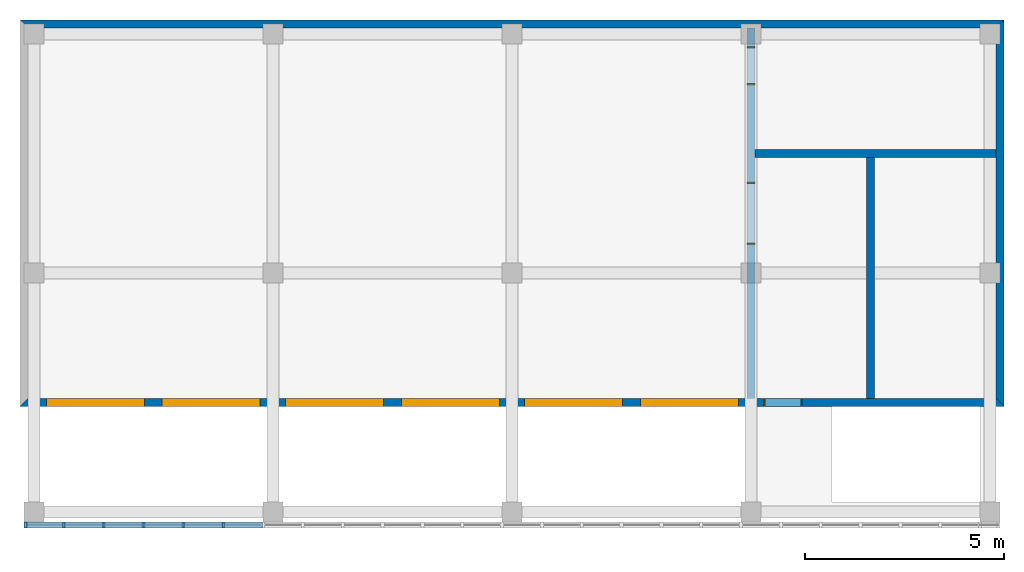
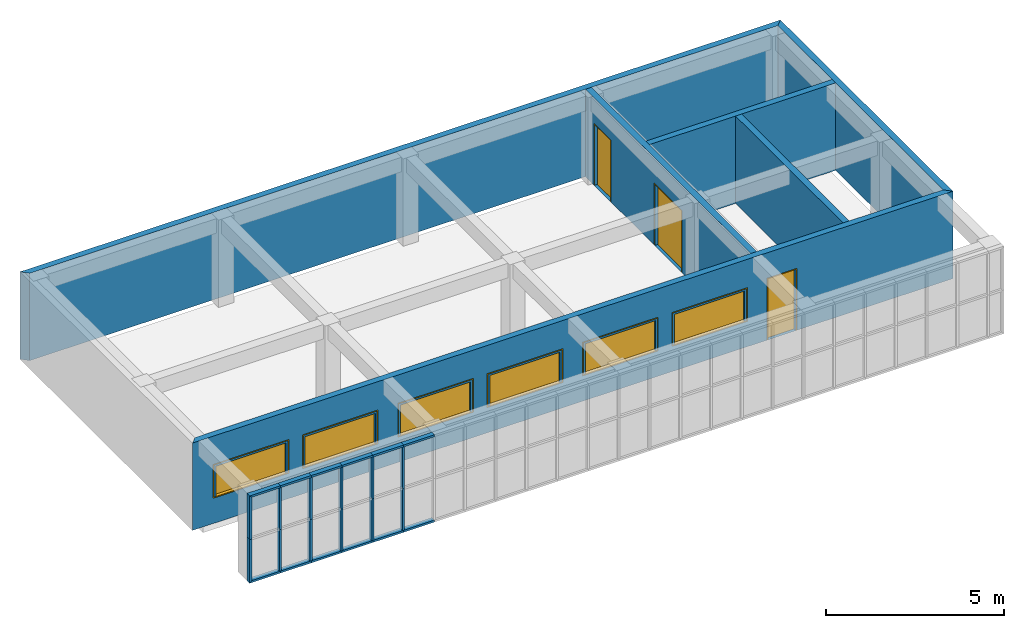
# One storey, part 2 of 4: 24 discrete accessories, 6 walls, 6 windows, 3 doors, 9 openings, 1 element without a shape of its own.
"""IFC2X3 building model written with IfcOpenShell, lengths in millimetres."""

from ifc_helpers import new_model, entity, si_unit, converted_unit, direction, frame, frame_2d, origin_with_axes, place, context, project, spatial, polyline, rectangle, outline, extrude, open_shell, surface_model, source, transform, mapped, material, layer, layer_set, layer_usage, type_object, element, fill, aggregate, save


model = new_model("IFC2X3")

# Units and contexts
model_context = context("Model", 3, precision=1e-05, world=origin_with_axes(), true_north=direction((6.123234e-17, 1.0)))
plan_context = context("Plan", 3, precision=1e-05, world=origin_with_axes(), true_north=direction((6.123234e-17, 1.0)))
ifc_project = project(units=[si_unit("LENGTHUNIT", "METRE", prefix="MILLI"), si_unit("AREAUNIT", "SQUARE_METRE"), si_unit("VOLUMEUNIT", "CUBIC_METRE"), converted_unit("PLANEANGLEUNIT", "DEGREE", entity("IfcPlaneAngleMeasure", 0.017453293), si_unit("PLANEANGLEUNIT", "RADIAN"), dimensions=[0, 0, 0, 0, 0, 0, 0]), si_unit("SOLIDANGLEUNIT", "STERADIAN"), si_unit("MASSUNIT", "GRAM"), si_unit("TIMEUNIT", "SECOND"), si_unit("THERMODYNAMICTEMPERATUREUNIT", "DEGREE_CELSIUS"), si_unit("LUMINOUSINTENSITYUNIT", "LUMEN")], contexts=[model_context, plan_context])

# Site, building, storey
site_placement = place(None, origin_with_axes())
site = spatial("IfcSite", under=ifc_project, at=site_placement, Name="\x8aO\x8d\\", CompositionType="ELEMENT")
building_placement = place(site_placement, origin_with_axes())
building = spatial("IfcBuilding", under=site, at=building_placement, Name="20101105_ArchCADMagic_002", CompositionType="ELEMENT")
storey_placement = place(building_placement, frame((0.0, 0.0, 3450.0), z_axis=(0.0, 0.0, 1.0), x_axis=(1.0, 0.0, 0.0)))
storey = spatial("IfcBuildingStorey", under=building, at=storey_placement, Name="1. 2\x8aK", CompositionType="ELEMENT", Elevation=3450.0)

# Wall, openings, door, windows
ifc_material = material(Name="\x83R\x83\x93\x83N\x83\x8a\x81[\x83g-\x8d\\\x91¢2")
ifc_layer = layer(ifc_material, 200.0, ventilated="UNKNOWN")
ifc_layer_set = layer_set([ifc_layer], Name="\x83R\x83\x93\x83N\x83\x8a\x81[\x83g-\x8d\\\x91¢2 200")
ifc_layer_usage_1 = layer_usage(ifc_layer_set, "AXIS2", "NEGATIVE", 100.0)
wall_type = type_object("IfcWallType", Name="\x83R\x83\x93\x83N\x83\x8a\x81[\x83g-\x8d\\\x91¢2 200", PredefinedType="NOTDEFINED", material=ifc_layer_set)
wall_1_placement = place(storey_placement, frame((-250.0, 2750.0, 0.0), z_axis=(0.0, 0.0, 1.0), x_axis=(1.0, 0.0, 0.0)))
wall_1 = element("IfcWallStandardCase", 1, at=wall_1_placement, inside=storey, type_object=wall_type, material=ifc_layer_usage_1, Name="W5", context=model_context, shape_type="SweptSolid", body=[
    extrude(outline(polyline([(-100.0, -100.0), (24600.0, -100.0), (24400.0, 100.0), (100.0, 100.0), (-100.0, -100.0)])), origin_with_axes(), (0.0, 0.0, 1.0), 3000.0),
])
opening_1_placement = place(wall_1_placement, frame((19050.0, -100.0, 0.0), z_axis=(0.0, 0.0, 1.0), x_axis=(1.0, 0.0, 0.0)))
opening_1 = element("IfcOpeningElement", 2, at=opening_1_placement, cuts=wall_1, ObjectType="Opening", context=model_context, shape_type="SweptSolid", body=[
    extrude(rectangle(XDim=899.0, YDim=2099.0, at=frame_2d((0.0, 1050.0), x_axis=(1.0, 0.0))), frame((0.0, 0.0, 0.0), z_axis=(0.0, 1.0, 0.0), x_axis=(-1.0, 0.0, 0.0)), (0.0, 0.0, 1.0), 200.0),
])
opening_2_placement = place(wall_1_placement, frame((1800.0, -100.0, 900.0), z_axis=(0.0, 0.0, 1.0), x_axis=(1.0, 0.0, 0.0)))
opening_2 = element("IfcOpeningElement", 3, at=opening_2_placement, cuts=wall_1, ObjectType="Opening", context=model_context, shape_type="SweptSolid", body=[
    extrude(rectangle(XDim=2400.0, YDim=1100.0, at=frame_2d((0.0, 550.0), x_axis=(1.0, 0.0))), frame((0.0, 60.0, 0.0), z_axis=(0.0, 1.0, 0.0), x_axis=(-1.0, 0.0, 0.0)), (0.0, 0.0, 1.0), 140.0),
    extrude(rectangle(XDim=2280.0, YDim=1040.0, at=frame_2d((0.0, 520.0), x_axis=(1.0, 0.0))), frame((0.0, 0.0, 0.0), z_axis=(0.0, 1.0, 0.0), x_axis=(-1.0, 0.0, 0.0)), (0.0, 0.0, 1.0), 60.0),
])
opening_3_placement = place(wall_1_placement, frame((4700.0, -100.0, 900.0), z_axis=(0.0, 0.0, 1.0), x_axis=(1.0, 0.0, 0.0)))
opening_3 = element("IfcOpeningElement", 4, at=opening_3_placement, cuts=wall_1, ObjectType="Opening", context=model_context, shape_type="SweptSolid", body=[
    extrude(rectangle(XDim=2400.0, YDim=1100.0, at=frame_2d((0.0, 550.0), x_axis=(1.0, 0.0))), frame((0.0, 60.0, 0.0), z_axis=(0.0, 1.0, 0.0), x_axis=(-1.0, 0.0, 0.0)), (0.0, 0.0, 1.0), 140.0),
    extrude(rectangle(XDim=2280.0, YDim=1040.0, at=frame_2d((0.0, 520.0), x_axis=(1.0, 0.0))), frame((0.0, 0.0, 0.0), z_axis=(0.0, 1.0, 0.0), x_axis=(-1.0, 0.0, 0.0)), (0.0, 0.0, 1.0), 60.0),
])
opening_4_placement = place(wall_1_placement, frame((7800.0, -100.0, 900.0), z_axis=(0.0, 0.0, 1.0), x_axis=(1.0, 0.0, 0.0)))
opening_4 = element("IfcOpeningElement", 5, at=opening_4_placement, cuts=wall_1, ObjectType="Opening", context=model_context, shape_type="SweptSolid", body=[
    extrude(rectangle(XDim=2400.0, YDim=1100.0, at=frame_2d((0.0, 550.0), x_axis=(1.0, 0.0))), frame((0.0, 60.0, 0.0), z_axis=(0.0, 1.0, 0.0), x_axis=(-1.0, 0.0, 0.0)), (0.0, 0.0, 1.0), 140.0),
    extrude(rectangle(XDim=2280.0, YDim=1040.0, at=frame_2d((0.0, 520.0), x_axis=(1.0, 0.0))), frame((0.0, 0.0, 0.0), z_axis=(0.0, 1.0, 0.0), x_axis=(-1.0, 0.0, 0.0)), (0.0, 0.0, 1.0), 60.0),
])
opening_5_placement = place(wall_1_placement, frame((10700.0, -100.0, 900.0), z_axis=(0.0, 0.0, 1.0), x_axis=(1.0, 0.0, 0.0)))
opening_5 = element("IfcOpeningElement", 6, at=opening_5_placement, cuts=wall_1, ObjectType="Opening", context=model_context, shape_type="SweptSolid", body=[
    extrude(rectangle(XDim=2400.0, YDim=1100.0, at=frame_2d((0.0, 550.0), x_axis=(1.0, 0.0))), frame((0.0, 60.0, 0.0), z_axis=(0.0, 1.0, 0.0), x_axis=(-1.0, 0.0, 0.0)), (0.0, 0.0, 1.0), 140.0),
    extrude(rectangle(XDim=2280.0, YDim=1040.0, at=frame_2d((0.0, 520.0), x_axis=(1.0, 0.0))), frame((0.0, 0.0, 0.0), z_axis=(0.0, 1.0, 0.0), x_axis=(-1.0, 0.0, 0.0)), (0.0, 0.0, 1.0), 60.0),
])
opening_6_placement = place(wall_1_placement, frame((13800.0, -100.0, 900.0), z_axis=(0.0, 0.0, 1.0), x_axis=(1.0, 0.0, 0.0)))
opening_6 = element("IfcOpeningElement", 7, at=opening_6_placement, cuts=wall_1, ObjectType="Opening", context=model_context, shape_type="SweptSolid", body=[
    extrude(rectangle(XDim=2400.0, YDim=1100.0, at=frame_2d((0.0, 550.0), x_axis=(1.0, 0.0))), frame((0.0, 60.0, 0.0), z_axis=(0.0, 1.0, 0.0), x_axis=(-1.0, 0.0, 0.0)), (0.0, 0.0, 1.0), 140.0),
    extrude(rectangle(XDim=2280.0, YDim=1040.0, at=frame_2d((0.0, 520.0), x_axis=(1.0, 0.0))), frame((0.0, 0.0, 0.0), z_axis=(0.0, 1.0, 0.0), x_axis=(-1.0, 0.0, 0.0)), (0.0, 0.0, 1.0), 60.0),
])
opening_7_placement = place(wall_1_placement, frame((16700.0, -100.0, 900.0), z_axis=(0.0, 0.0, 1.0), x_axis=(1.0, 0.0, 0.0)))
opening_7 = element("IfcOpeningElement", 8, at=opening_7_placement, cuts=wall_1, ObjectType="Opening", context=model_context, shape_type="SweptSolid", body=[
    extrude(rectangle(XDim=2400.0, YDim=1100.0, at=frame_2d((0.0, 550.0), x_axis=(1.0, 0.0))), frame((0.0, 60.0, 0.0), z_axis=(0.0, 1.0, 0.0), x_axis=(-1.0, 0.0, 0.0)), (0.0, 0.0, 1.0), 140.0),
    extrude(rectangle(XDim=2280.0, YDim=1040.0, at=frame_2d((0.0, 520.0), x_axis=(1.0, 0.0))), frame((0.0, 0.0, 0.0), z_axis=(0.0, 1.0, 0.0), x_axis=(-1.0, 0.0, 0.0)), (0.0, 0.0, 1.0), 60.0),
])
door_style_1 = type_object("IfcDoorStyle", ConstructionType="NOTDEFINED", OperationType="NOTDEFINED", ParameterTakesPrecedence=False, Sizeable=False)
shared_shape_1 = source(origin_with_axes(), model_context, "Body", "SurfaceModel", [
    surface_model("IfcShellBasedSurfaceModel", [(0.0, -10.0, 0.0), (0.0, -10.0, 2100.0), (900.0, -10.0, 2100.0), (900.0, -10.0, 0.0), (150.0, -10.0, 150.0), (750.0, -10.0, 150.0), (750.0, -10.0, 1950.0), (150.0, -10.0, 1950.0), (150.0, -10.0, 150.0), (150.0, -10.0, 1950.0), (750.0, -10.0, 1950.0), (750.0, -10.0, 150.0), (930.0, 90.0, 0.0), (900.0, 90.0, 0.0), (900.0, 90.0, 2100.0), (0.0, 90.0, 2100.0), (0.0, 90.0, 0.0), (-30.0, 90.0, 0.0), (-30.0, 90.0, 2130.0), (930.0, 90.0, 2130.0), (930.0, -110.0, 0.0), (900.0, -110.0, 0.0), (900.0, -110.0, 2100.0), (0.0, -110.0, 2100.0), (0.0, -110.0, 0.0), (-30.0, -110.0, 0.0), (-30.0, -110.0, 2130.0), (930.0, -110.0, 2130.0), (900.0, 90.0, 0.0), (900.0, -110.0, 0.0), (900.0, -110.0, 2100.0), (900.0, 90.0, 2100.0), (930.0, 90.0, 0.0), (930.0, -110.0, 0.0), (0.0, -110.0, 2100.0), (0.0, 90.0, 2100.0), (930.0, 90.0, 2130.0), (930.0, -110.0, 2130.0), (0.0, -110.0, 0.0), (0.0, 90.0, 0.0), (-30.0, 90.0, 2130.0), (-30.0, -110.0, 2130.0), (-30.0, -110.0, 0.0), (-30.0, 90.0, 0.0)], [open_shell([[[0, 1, 2, 3], [4, 5, 6, 7]]]), open_shell([[[8, 9, 10, 11]]]), open_shell([[[12, 13, 14, 15, 16, 17, 18, 19]]]), open_shell([[[20, 21, 22, 23, 24, 25, 26, 27]]]), open_shell([[[28, 29, 30, 31]], [[32, 33, 29, 28]], [[31, 30, 34, 35]], [[36, 37, 33, 32]], [[35, 34, 38, 39]], [[40, 41, 37, 36]], [[39, 38, 42, 43]], [[43, 42, 41, 40]]])]),
])
door_1_placement = place(opening_1_placement, frame((-450.0, 110.0, 0.0), z_axis=(0.0, 0.0, 1.0), x_axis=(1.0, 0.0, 0.0)))
door_1 = element("IfcDoor", 9, at=door_1_placement, inside=storey, type_object=door_style_1, Name="SD2", OverallHeight=2100.0, OverallWidth=900.0, context=model_context, shape_type="MappedRepresentation", body=[
    mapped(shared_shape_1, transform((0.0, 0.0, 0.0), scale=1.0)),
])
fill(opening_1, door_1)
window_style_1 = type_object("IfcWindowStyle", ConstructionType="NOTDEFINED", OperationType="NOTDEFINED", ParameterTakesPrecedence=False, Sizeable=False)
shared_shape_2 = source(origin_with_axes(), model_context, "Body", "SurfaceModel", [
    surface_model("IfcShellBasedSurfaceModel", [(2400.0, 40.0, 8.8817842e-13), (2400.0, 40.0, 1100.0), (0.0, 40.0, 1100.0), (0.0, 40.0, 8.8817842e-13), (-30.0, -60.0, -30.0), (2430.0, -60.0, -30.0), (2430.0, -60.0, 1130.0), (-30.0, -60.0, 1130.0), (0.0, -60.0, 8.8817842e-13), (0.0, -60.0, 1100.0), (2400.0, -60.0, 1100.0), (2400.0, -60.0, 8.8817842e-13), (-30.0, 140.0, -30.0), (2430.0, 140.0, -30.0), (2430.0, 140.0, 1130.0), (-30.0, 140.0, 1130.0), (0.0, 140.0, 8.8817842e-13), (0.0, 140.0, 1100.0), (2400.0, 140.0, 1100.0), (2400.0, 140.0, 8.8817842e-13), (-30.0, -60.0, -30.0), (-30.0, 140.0, -30.0), (2430.0, 140.0, -30.0), (2430.0, -60.0, -30.0), (-30.0, -60.0, 1130.0), (-30.0, 140.0, 1130.0), (2430.0, 140.0, 1130.0), (2430.0, -60.0, 1130.0), (0.0, -60.0, 8.8817842e-13), (0.0, 140.0, 8.8817842e-13), (2400.0, 140.0, 8.8817842e-13), (2400.0, -60.0, 8.8817842e-13), (0.0, -60.0, 1100.0), (0.0, 140.0, 1100.0), (2400.0, 140.0, 1100.0), (2400.0, -60.0, 1100.0)], [open_shell([[[0, 1, 2, 3]]]), open_shell([[[4, 5, 6, 7], [8, 9, 10, 11]]]), open_shell([[[12, 13, 14, 15], [16, 17, 18, 19]]]), open_shell([[[20, 21, 22, 23]], [[24, 25, 21, 20]], [[23, 22, 26, 27]], [[27, 26, 25, 24]]]), open_shell([[[28, 29, 30, 31]], [[32, 33, 29, 28]], [[31, 30, 34, 35]], [[35, 34, 33, 32]]])]),
])
window_1_placement = place(opening_2_placement, frame((-1200.0, 60.0, 0.0), z_axis=(0.0, 0.0, 1.0), x_axis=(1.0, 0.0, 0.0)))
window_1 = element("IfcWindow", 10, at=window_1_placement, inside=storey, type_object=window_style_1, Name="AW1", OverallHeight=1100.0, OverallWidth=2400.0, context=model_context, shape_type="MappedRepresentation", body=[
    mapped(shared_shape_2, transform((0.0, 0.0, 0.0), scale=1.0)),
])
fill(opening_2, window_1)
window_style_2 = type_object("IfcWindowStyle", ConstructionType="NOTDEFINED", OperationType="NOTDEFINED", ParameterTakesPrecedence=False, Sizeable=False)
window_2_placement = place(opening_3_placement, frame((-1200.0, 60.0, 0.0), z_axis=(0.0, 0.0, 1.0), x_axis=(1.0, 0.0, 0.0)))
window_2 = element("IfcWindow", 11, at=window_2_placement, inside=storey, type_object=window_style_2, Name="AW1", OverallHeight=1100.0, OverallWidth=2400.0, context=model_context, shape_type="MappedRepresentation", body=[
    mapped(shared_shape_2, transform((0.0, 0.0, 0.0), scale=1.0)),
])
fill(opening_3, window_2)
window_style_3 = type_object("IfcWindowStyle", ConstructionType="NOTDEFINED", OperationType="NOTDEFINED", ParameterTakesPrecedence=False, Sizeable=False)
window_3_placement = place(opening_4_placement, frame((-1200.0, 60.0, 0.0), z_axis=(0.0, 0.0, 1.0), x_axis=(1.0, 0.0, 0.0)))
window_3 = element("IfcWindow", 12, at=window_3_placement, inside=storey, type_object=window_style_3, Name="AW1", OverallHeight=1100.0, OverallWidth=2400.0, context=model_context, shape_type="MappedRepresentation", body=[
    mapped(shared_shape_2, transform((0.0, 0.0, 0.0), scale=1.0)),
])
fill(opening_4, window_3)
window_style_4 = type_object("IfcWindowStyle", ConstructionType="NOTDEFINED", OperationType="NOTDEFINED", ParameterTakesPrecedence=False, Sizeable=False)
window_4_placement = place(opening_5_placement, frame((-1200.0, 60.0, 0.0), z_axis=(0.0, 0.0, 1.0), x_axis=(1.0, 0.0, 0.0)))
window_4 = element("IfcWindow", 13, at=window_4_placement, inside=storey, type_object=window_style_4, Name="AW1", OverallHeight=1100.0, OverallWidth=2400.0, context=model_context, shape_type="MappedRepresentation", body=[
    mapped(shared_shape_2, transform((0.0, 0.0, 0.0), scale=1.0)),
])
fill(opening_5, window_4)
window_style_5 = type_object("IfcWindowStyle", ConstructionType="NOTDEFINED", OperationType="NOTDEFINED", ParameterTakesPrecedence=False, Sizeable=False)
window_5_placement = place(opening_6_placement, frame((-1200.0, 60.0, 0.0), z_axis=(0.0, 0.0, 1.0), x_axis=(1.0, 0.0, 0.0)))
window_5 = element("IfcWindow", 14, at=window_5_placement, inside=storey, type_object=window_style_5, Name="AW1", OverallHeight=1100.0, OverallWidth=2400.0, context=model_context, shape_type="MappedRepresentation", body=[
    mapped(shared_shape_2, transform((0.0, 0.0, 0.0), scale=1.0)),
])
fill(opening_6, window_5)
window_style_6 = type_object("IfcWindowStyle", ConstructionType="NOTDEFINED", OperationType="NOTDEFINED", ParameterTakesPrecedence=False, Sizeable=False)
window_6_placement = place(opening_7_placement, frame((-1200.0, 60.0, 0.0), z_axis=(0.0, 0.0, 1.0), x_axis=(1.0, 0.0, 0.0)))
window_6 = element("IfcWindow", 15, at=window_6_placement, inside=storey, type_object=window_style_6, Name="AW1", OverallHeight=1100.0, OverallWidth=2400.0, context=model_context, shape_type="MappedRepresentation", body=[
    mapped(shared_shape_2, transform((0.0, 0.0, 0.0), scale=1.0)),
])
fill(opening_7, window_6)

# Walls
ifc_layer_usage_2 = layer_usage(ifc_layer_set, "AXIS2", "NEGATIVE", 100.0)
wall_2_placement = place(storey_placement, frame((24250.0, 2750.0, 0.0), z_axis=(0.0, 0.0, 1.0), x_axis=(0.0, 1.0, 0.0)))
element("IfcWallStandardCase", 16, at=wall_2_placement, inside=storey, type_object=wall_type, material=ifc_layer_usage_2, Name="W6", context=model_context, shape_type="SweptSolid", body=[
    extrude(outline(polyline([(-100.0, -100.0), (9600.0, -100.0), (9400.0, 100.0), (100.0, 100.0), (-100.0, -100.0)])), origin_with_axes(), (0.0, 0.0, 1.0), 3000.0),
])
ifc_layer_usage_3 = layer_usage(ifc_layer_set, "AXIS2", "NEGATIVE", 100.0)
wall_3_placement = place(storey_placement, frame((24250.0, 12250.0, 0.0), z_axis=(0.0, 0.0, 1.0), x_axis=(-1.0, 0.0, 0.0)))
element("IfcWallStandardCase", 17, at=wall_3_placement, inside=storey, type_object=wall_type, material=ifc_layer_usage_3, Name="W7", context=model_context, shape_type="SweptSolid", body=[
    extrude(outline(polyline([(-100.0, -100.0), (24600.0, -100.0), (24400.0, 100.0), (100.0, 100.0), (-100.0, -100.0)])), origin_with_axes(), (0.0, 0.0, 1.0), 3000.0),
])

# Wall, openings, doors
ifc_layer_usage_4 = layer_usage(ifc_layer_set, "AXIS2", "NEGATIVE", 100.0)
wall_4_placement = place(storey_placement, frame((18000.0, 2750.0, 0.0), z_axis=(0.0, 0.0, 1.0), x_axis=(0.0, 1.0, 0.0)))
wall_4 = element("IfcWallStandardCase", 18, at=wall_4_placement, inside=storey, type_object=wall_type, material=ifc_layer_usage_4, Name="W9", context=model_context, shape_type="SweptSolid", body=[
    extrude(outline(polyline([(100.0, -100.0), (9400.0, -100.0), (9400.0, 100.0), (100.0, 100.0), (100.0, -100.0)])), origin_with_axes(), (0.0, 0.0, 1.0), 3000.0),
])
opening_8_placement = place(wall_4_placement, frame((8450.0, -100.0, 0.0), z_axis=(0.0, 0.0, 1.0), x_axis=(1.0, 0.0, 0.0)))
opening_8 = element("IfcOpeningElement", 19, at=opening_8_placement, cuts=wall_4, ObjectType="Opening", context=model_context, shape_type="SweptSolid", body=[
    extrude(rectangle(XDim=899.0, YDim=2099.0, at=frame_2d((0.0, 1050.0), x_axis=(1.0, 0.0))), frame((0.0, 0.0, 0.0), z_axis=(0.0, 1.0, 0.0), x_axis=(-1.0, 0.0, 0.0)), (0.0, 0.0, 1.0), 200.0),
])
opening_9_placement = place(wall_4_placement, frame((4750.0, -100.0, 0.0), z_axis=(0.0, 0.0, 1.0), x_axis=(1.0, 0.0, 0.0)))
opening_9 = element("IfcOpeningElement", 20, at=opening_9_placement, cuts=wall_4, ObjectType="Opening", context=model_context, shape_type="SweptSolid", body=[
    extrude(rectangle(XDim=1499.0, YDim=2099.0, at=frame_2d((0.0, 1050.0), x_axis=(1.0, 0.0))), frame((0.0, 0.0, 0.0), z_axis=(0.0, 1.0, 0.0), x_axis=(-1.0, 0.0, 0.0)), (0.0, 0.0, 1.0), 200.0),
])
door_style_2 = type_object("IfcDoorStyle", ConstructionType="NOTDEFINED", OperationType="NOTDEFINED", ParameterTakesPrecedence=False, Sizeable=False)
shared_shape_3 = source(origin_with_axes(), model_context, "Body", "SurfaceModel", [
    surface_model("IfcShellBasedSurfaceModel", [(0.0, -10.0, 0.0), (0.0, -10.0, 2100.0), (900.0, -10.0, 2100.0), (900.0, -10.0, 0.0), (150.0, -10.0, 150.0), (750.0, -10.0, 150.0), (750.0, -10.0, 1950.0), (150.0, -10.0, 1950.0), (150.0, -10.0, 150.0), (150.0, -10.0, 1950.0), (750.0, -10.0, 1950.0), (750.0, -10.0, 150.0), (930.0, 90.0, 0.0), (900.0, 90.0, 0.0), (900.0, 90.0, 2100.0), (0.0, 90.0, 2100.0), (0.0, 90.0, 0.0), (-30.0, 90.0, 0.0), (-30.0, 90.0, 2130.0), (930.0, 90.0, 2130.0), (930.0, -110.0, 0.0), (900.0, -110.0, 0.0), (900.0, -110.0, 2100.0), (0.0, -110.0, 2100.0), (0.0, -110.0, 0.0), (-30.0, -110.0, 0.0), (-30.0, -110.0, 2130.0), (930.0, -110.0, 2130.0), (900.0, 90.0, 0.0), (900.0, -110.0, 0.0), (900.0, -110.0, 2100.0), (900.0, 90.0, 2100.0), (930.0, 90.0, 0.0), (930.0, -110.0, 0.0), (0.0, -110.0, 2100.0), (0.0, 90.0, 2100.0), (930.0, 90.0, 2130.0), (930.0, -110.0, 2130.0), (0.0, -110.0, 0.0), (0.0, 90.0, 0.0), (-30.0, 90.0, 2130.0), (-30.0, -110.0, 2130.0), (-30.0, -110.0, 0.0), (-30.0, 90.0, 0.0)], [open_shell([[[0, 1, 2, 3], [4, 5, 6, 7]]]), open_shell([[[8, 9, 10, 11]]]), open_shell([[[12, 13, 14, 15, 16, 17, 18, 19]]]), open_shell([[[20, 21, 22, 23, 24, 25, 26, 27]]]), open_shell([[[28, 29, 30, 31]], [[32, 33, 29, 28]], [[31, 30, 34, 35]], [[36, 37, 33, 32]], [[35, 34, 38, 39]], [[40, 41, 37, 36]], [[39, 38, 42, 43]], [[43, 42, 41, 40]]])]),
])
door_2_placement = place(opening_8_placement, frame((450.0, 90.0, 0.0), z_axis=(0.0, 0.0, 1.0), x_axis=(-1.0, 0.0, 0.0)))
door_2 = element("IfcDoor", 21, at=door_2_placement, inside=storey, type_object=door_style_2, Name="SD1", OverallHeight=2100.0, OverallWidth=900.0, context=model_context, shape_type="MappedRepresentation", body=[
    mapped(shared_shape_3, transform((0.0, 0.0, 0.0), scale=1.0)),
])
fill(opening_8, door_2)
door_style_3 = type_object("IfcDoorStyle", Name="\x97¼\x8aJ\x82«\x8cË_JX4", ConstructionType="NOTDEFINED", OperationType="NOTDEFINED", ParameterTakesPrecedence=False, Sizeable=False)
shared_shape_4 = source(origin_with_axes(), model_context, "Body", "SurfaceModel", [
    surface_model("IfcShellBasedSurfaceModel", [(750.0, -10.0, 0.0), (750.0, -10.0, 2100.0), (1500.0, -10.0, 2100.0), (1500.0, -10.0, 0.0), (750.0, -10.0, 0.0), (0.0, -10.0, 0.0), (0.0, -10.0, 2100.0), (750.0, -10.0, 2100.0), (-30.0, 90.0, 0.0), (-30.0, 90.0, 2130.0), (1530.0, 90.0, 2130.0), (1530.0, 90.0, 0.0), (1500.0, 90.0, 0.0), (1500.0, 90.0, 2100.0), (0.0, 90.0, 2100.0), (0.0, 90.0, 0.0), (-30.0, -110.0, 0.0), (-30.0, -110.0, 2130.0), (1530.0, -110.0, 2130.0), (1530.0, -110.0, 0.0), (1500.0, -110.0, 0.0), (1500.0, -110.0, 2100.0), (0.0, -110.0, 2100.0), (0.0, -110.0, 0.0), (0.0, 90.0, 0.0), (0.0, 90.0, 2100.0), (0.0, -110.0, 2100.0), (0.0, -110.0, 0.0), (1500.0, 90.0, 2100.0), (1500.0, -110.0, 2100.0), (-30.0, 90.0, 0.0), (-30.0, -110.0, 0.0), (1500.0, 90.0, 0.0), (1500.0, -110.0, 0.0), (-30.0, 90.0, 2130.0), (-30.0, -110.0, 2130.0), (1530.0, 90.0, 0.0), (1530.0, -110.0, 0.0), (1530.0, 90.0, 2130.0), (1530.0, -110.0, 2130.0)], [open_shell([[[0, 1, 2, 3]]]), open_shell([[[4, 5, 6, 7]]]), open_shell([[[8, 9, 10, 11, 12, 13, 14, 15]]]), open_shell([[[16, 17, 18, 19, 20, 21, 22, 23]]]), open_shell([[[24, 25, 26, 27]], [[25, 28, 29, 26]], [[30, 24, 27, 31]], [[28, 32, 33, 29]], [[34, 30, 31, 35]], [[32, 36, 37, 33]], [[38, 34, 35, 39]], [[36, 38, 39, 37]]])]),
])
door_3_placement = place(opening_9_placement, frame((-750.0, 110.0, 0.0), z_axis=(0.0, 0.0, 1.0), x_axis=(1.0, 0.0, 0.0)))
door_3 = element("IfcDoor", 22, at=door_3_placement, inside=storey, type_object=door_style_3, Name="SD4", OverallHeight=2100.0, OverallWidth=1500.0, context=model_context, shape_type="MappedRepresentation", body=[
    mapped(shared_shape_4, transform((0.0, 0.0, 0.0), scale=1.0)),
])
fill(opening_9, door_3)

# Walls
ifc_layer_usage_5 = layer_usage(ifc_layer_set, "AXIS2", "NEGATIVE", 100.0)
wall_5_placement = place(storey_placement, frame((18000.0, 9000.0, 0.0), z_axis=(0.0, 0.0, 1.0), x_axis=(1.0, 0.0, 0.0)))
element("IfcWallStandardCase", 23, at=wall_5_placement, inside=storey, type_object=wall_type, material=ifc_layer_usage_5, Name="W0", context=model_context, shape_type="SweptSolid", body=[
    extrude(outline(polyline([(100.0, -100.0), (6150.0, -100.0), (6150.0, 100.0), (100.0, 100.0), (100.0, -100.0)])), origin_with_axes(), (0.0, 0.0, 1.0), 3000.0),
])
ifc_layer_usage_6 = layer_usage(ifc_layer_set, "AXIS2", "NEGATIVE", 100.0)
wall_6_placement = place(storey_placement, frame((21000.0, 2750.0, 0.0), z_axis=(0.0, 0.0, 1.0), x_axis=(0.0, 1.0, 0.0)))
element("IfcWallStandardCase", 24, at=wall_6_placement, inside=storey, type_object=wall_type, material=ifc_layer_usage_6, Name="W1", context=model_context, shape_type="SweptSolid", body=[
    extrude(outline(polyline([(100.0, -100.0), (6150.0, -100.0), (6150.0, 100.0), (100.0, 100.0), (100.0, -100.0)])), origin_with_axes(), (0.0, 0.0, 1.0), 3000.0),
])

# Curtain wall, discrete accessories
curtain_wall_placement = place(storey_placement, frame((-250.0, -325.0, 0.0), z_axis=(0.0, 0.0, 1.0), x_axis=(1.0, 0.0, 0.0)))
curtain_wall = element("IfcCurtainWall", 25, at=curtain_wall_placement, inside=storey, Name="CW5")
discrete_accessory_type = type_object("IfcDiscreteAccessoryType", Name="AC12_CW_Frame")
shared_shape_5 = source(origin_with_axes(), model_context, "Body", "SweptSolid", [
    extrude(outline(polyline([(0.0, 0.0), (98.994949, 4.4408921e-13), (-608.11183, -707.10678), (-657.60931, -657.60931), (0.0, 0.0)])), origin_with_axes(), (0.0, 0.0, 1.0), 150.0),
])
discrete_accessory_1_placement = place(storey_placement, frame((-180.0, -400.0, 70.0), z_axis=(0.0, 1.0, 0.0), x_axis=(-0.70710678, 0.0, -0.70710678)))
discrete_accessory_1 = element("IfcDiscreteAccessory", 26, at=discrete_accessory_1_placement, type_object=discrete_accessory_type, Name="\x8b«\x8aE-723", context=model_context, shape_type="MappedRepresentation", body=[
    mapped(shared_shape_5, transform((0.0, 0.0, 0.0), scale=1.0)),
])
shared_shape_6 = source(origin_with_axes(), model_context, "Body", "SweptSolid", [
    extrude(outline(polyline([(0.0, 0.0), (98.994949, 4.4408921e-13), (1110.1576, -1011.1627), (1060.6602, -1060.6602), (0.0, 0.0)])), origin_with_axes(), (0.0, 0.0, 1.0), 150.0),
])
discrete_accessory_2_placement = place(storey_placement, frame((-250.0, -400.0, 0.0), z_axis=(0.0, 1.0, 0.0), x_axis=(0.70710678, 0.0, 0.70710678)))
discrete_accessory_2 = element("IfcDiscreteAccessory", 27, at=discrete_accessory_2_placement, type_object=discrete_accessory_type, Name="\x8b«\x8aE-783", context=model_context, shape_type="MappedRepresentation", body=[
    mapped(shared_shape_6, transform((0.0, 0.0, 0.0), scale=1.0)),
])
shared_shape_7 = source(origin_with_axes(), model_context, "Body", "SweptSolid", [
    extrude(outline(polyline([(0.0, 0.0), (150.0, 0.0), (150.0, -1000.0), (5.5511151e-14, -1000.0), (0.0, 0.0)])), origin_with_axes(), (0.0, 0.0, 1.0), 70.0),
])
discrete_accessory_3_placement = place(storey_placement, frame((750.0, -250.0, 70.0), z_axis=(0.0, 0.0, -1.0), x_axis=(0.0, -1.0, 0.0)))
discrete_accessory_3 = element("IfcDiscreteAccessory", 28, at=discrete_accessory_3_placement, type_object=discrete_accessory_type, Name="\x8b«\x8aE-724", context=model_context, shape_type="MappedRepresentation", body=[
    mapped(shared_shape_7, transform((0.0, 0.0, 0.0), scale=1.0)),
])
discrete_accessory_4_placement = place(storey_placement, frame((1750.0, -250.0, 70.0), z_axis=(0.0, 0.0, -1.0), x_axis=(0.0, -1.0, 0.0)))
discrete_accessory_4 = element("IfcDiscreteAccessory", 29, at=discrete_accessory_4_placement, type_object=discrete_accessory_type, Name="\x8b«\x8aE-725", context=model_context, shape_type="MappedRepresentation", body=[
    mapped(shared_shape_7, transform((0.0, 0.0, 0.0), scale=1.0)),
])
discrete_accessory_5_placement = place(storey_placement, frame((2750.0, -250.0, 70.0), z_axis=(0.0, 0.0, -1.0), x_axis=(0.0, -1.0, 0.0)))
discrete_accessory_5 = element("IfcDiscreteAccessory", 30, at=discrete_accessory_5_placement, type_object=discrete_accessory_type, Name="\x8b«\x8aE-726", context=model_context, shape_type="MappedRepresentation", body=[
    mapped(shared_shape_7, transform((0.0, 0.0, 0.0), scale=1.0)),
])
discrete_accessory_6_placement = place(storey_placement, frame((3750.0, -250.0, 70.0), z_axis=(0.0, 0.0, -1.0), x_axis=(0.0, -1.0, 0.0)))
discrete_accessory_6 = element("IfcDiscreteAccessory", 31, at=discrete_accessory_6_placement, type_object=discrete_accessory_type, Name="\x8b«\x8aE-727", context=model_context, shape_type="MappedRepresentation", body=[
    mapped(shared_shape_7, transform((0.0, 0.0, 0.0), scale=1.0)),
])
discrete_accessory_7_placement = place(storey_placement, frame((4750.0, -250.0, 70.0), z_axis=(0.0, 0.0, -1.0), x_axis=(0.0, -1.0, 0.0)))
discrete_accessory_7 = element("IfcDiscreteAccessory", 32, at=discrete_accessory_7_placement, type_object=discrete_accessory_type, Name="\x8b«\x8aE-728", context=model_context, shape_type="MappedRepresentation", body=[
    mapped(shared_shape_7, transform((0.0, 0.0, 0.0), scale=1.0)),
])
discrete_accessory_8_placement = place(storey_placement, frame((750.0, -250.0, 3000.0), z_axis=(0.0, 0.0, -1.0), x_axis=(0.0, -1.0, 0.0)))
discrete_accessory_8 = element("IfcDiscreteAccessory", 33, at=discrete_accessory_8_placement, type_object=discrete_accessory_type, Name="\x8b«\x8aE-819", context=model_context, shape_type="MappedRepresentation", body=[
    mapped(shared_shape_7, transform((0.0, 0.0, 0.0), scale=1.0)),
])
discrete_accessory_9_placement = place(storey_placement, frame((1750.0, -250.0, 3000.0), z_axis=(0.0, 0.0, -1.0), x_axis=(0.0, -1.0, 0.0)))
discrete_accessory_9 = element("IfcDiscreteAccessory", 34, at=discrete_accessory_9_placement, type_object=discrete_accessory_type, Name="\x8b«\x8aE-819", context=model_context, shape_type="MappedRepresentation", body=[
    mapped(shared_shape_7, transform((0.0, 0.0, 0.0), scale=1.0)),
])
discrete_accessory_10_placement = place(storey_placement, frame((2750.0, -250.0, 3000.0), z_axis=(0.0, 0.0, -1.0), x_axis=(0.0, -1.0, 0.0)))
discrete_accessory_10 = element("IfcDiscreteAccessory", 35, at=discrete_accessory_10_placement, type_object=discrete_accessory_type, Name="\x8b«\x8aE-819", context=model_context, shape_type="MappedRepresentation", body=[
    mapped(shared_shape_7, transform((0.0, 0.0, 0.0), scale=1.0)),
])
discrete_accessory_11_placement = place(storey_placement, frame((3750.0, -250.0, 3000.0), z_axis=(0.0, 0.0, -1.0), x_axis=(0.0, -1.0, 0.0)))
discrete_accessory_11 = element("IfcDiscreteAccessory", 36, at=discrete_accessory_11_placement, type_object=discrete_accessory_type, Name="\x8b«\x8aE-819", context=model_context, shape_type="MappedRepresentation", body=[
    mapped(shared_shape_7, transform((0.0, 0.0, 0.0), scale=1.0)),
])
discrete_accessory_12_placement = place(storey_placement, frame((4750.0, -250.0, 3000.0), z_axis=(0.0, 0.0, -1.0), x_axis=(0.0, -1.0, 0.0)))
discrete_accessory_12 = element("IfcDiscreteAccessory", 37, at=discrete_accessory_12_placement, type_object=discrete_accessory_type, Name="\x8b«\x8aE-819", context=model_context, shape_type="MappedRepresentation", body=[
    mapped(shared_shape_7, transform((0.0, 0.0, 0.0), scale=1.0)),
])
shared_shape_8 = source(origin_with_axes(), model_context, "Body", "SweptSolid", [
    extrude(outline(polyline([(0.0, 0.0), (150.0, 0.0), (150.0, -1430.0), (0.0, -1430.0), (0.0, 0.0)])), origin_with_axes(), (0.0, 0.0, 1.0), 70.0),
])
discrete_accessory_13_placement = place(storey_placement, frame((715.0, -250.0, 70.0), z_axis=(1.0, 0.0, 0.0), x_axis=(0.0, -1.0, 0.0)))
discrete_accessory_13 = element("IfcDiscreteAccessory", 38, at=discrete_accessory_13_placement, type_object=discrete_accessory_type, Name="\x83}\x83\x8a\x83I\x83\x93-639", context=model_context, shape_type="MappedRepresentation", body=[
    mapped(shared_shape_8, transform((0.0, 0.0, 0.0), scale=1.0)),
])
discrete_accessory_14_placement = place(storey_placement, frame((1715.0, -250.0, 70.0), z_axis=(1.0, 0.0, 0.0), x_axis=(0.0, -1.0, 0.0)))
discrete_accessory_14 = element("IfcDiscreteAccessory", 39, at=discrete_accessory_14_placement, type_object=discrete_accessory_type, Name="\x83}\x83\x8a\x83I\x83\x93-640", context=model_context, shape_type="MappedRepresentation", body=[
    mapped(shared_shape_8, transform((0.0, 0.0, 0.0), scale=1.0)),
])
discrete_accessory_15_placement = place(storey_placement, frame((2715.0, -250.0, 70.0), z_axis=(1.0, 0.0, 0.0), x_axis=(0.0, -1.0, 0.0)))
discrete_accessory_15 = element("IfcDiscreteAccessory", 40, at=discrete_accessory_15_placement, type_object=discrete_accessory_type, Name="\x83}\x83\x8a\x83I\x83\x93-641", context=model_context, shape_type="MappedRepresentation", body=[
    mapped(shared_shape_8, transform((0.0, 0.0, 0.0), scale=1.0)),
])
discrete_accessory_16_placement = place(storey_placement, frame((3715.0, -250.0, 70.0), z_axis=(1.0, 0.0, 0.0), x_axis=(0.0, -1.0, 0.0)))
discrete_accessory_16 = element("IfcDiscreteAccessory", 41, at=discrete_accessory_16_placement, type_object=discrete_accessory_type, Name="\x83}\x83\x8a\x83I\x83\x93-642", context=model_context, shape_type="MappedRepresentation", body=[
    mapped(shared_shape_8, transform((0.0, 0.0, 0.0), scale=1.0)),
])
discrete_accessory_17_placement = place(storey_placement, frame((4715.0, -250.0, 70.0), z_axis=(1.0, 0.0, 0.0), x_axis=(0.0, -1.0, 0.0)))
discrete_accessory_17 = element("IfcDiscreteAccessory", 42, at=discrete_accessory_17_placement, type_object=discrete_accessory_type, Name="\x83}\x83\x8a\x83I\x83\x93-643", context=model_context, shape_type="MappedRepresentation", body=[
    mapped(shared_shape_8, transform((0.0, 0.0, 0.0), scale=1.0)),
])
discrete_accessory_18_placement = place(storey_placement, frame((715.0, -250.0, 1500.0), z_axis=(1.0, 0.0, 0.0), x_axis=(0.0, -1.0, 0.0)))
discrete_accessory_18 = element("IfcDiscreteAccessory", 43, at=discrete_accessory_18_placement, type_object=discrete_accessory_type, Name="\x83}\x83\x8a\x83I\x83\x93-663", context=model_context, shape_type="MappedRepresentation", body=[
    mapped(shared_shape_8, transform((0.0, 0.0, 0.0), scale=1.0)),
])
discrete_accessory_19_placement = place(storey_placement, frame((1715.0, -250.0, 1500.0), z_axis=(1.0, 0.0, 0.0), x_axis=(0.0, -1.0, 0.0)))
discrete_accessory_19 = element("IfcDiscreteAccessory", 44, at=discrete_accessory_19_placement, type_object=discrete_accessory_type, Name="\x83}\x83\x8a\x83I\x83\x93-664", context=model_context, shape_type="MappedRepresentation", body=[
    mapped(shared_shape_8, transform((0.0, 0.0, 0.0), scale=1.0)),
])
discrete_accessory_20_placement = place(storey_placement, frame((2715.0, -250.0, 1500.0), z_axis=(1.0, 0.0, 0.0), x_axis=(0.0, -1.0, 0.0)))
discrete_accessory_20 = element("IfcDiscreteAccessory", 45, at=discrete_accessory_20_placement, type_object=discrete_accessory_type, Name="\x83}\x83\x8a\x83I\x83\x93-665", context=model_context, shape_type="MappedRepresentation", body=[
    mapped(shared_shape_8, transform((0.0, 0.0, 0.0), scale=1.0)),
])
discrete_accessory_21_placement = place(storey_placement, frame((3715.0, -250.0, 1500.0), z_axis=(1.0, 0.0, 0.0), x_axis=(0.0, -1.0, 0.0)))
discrete_accessory_21 = element("IfcDiscreteAccessory", 46, at=discrete_accessory_21_placement, type_object=discrete_accessory_type, Name="\x83}\x83\x8a\x83I\x83\x93-666", context=model_context, shape_type="MappedRepresentation", body=[
    mapped(shared_shape_8, transform((0.0, 0.0, 0.0), scale=1.0)),
])
discrete_accessory_22_placement = place(storey_placement, frame((4715.0, -250.0, 1500.0), z_axis=(1.0, 0.0, 0.0), x_axis=(0.0, -1.0, 0.0)))
discrete_accessory_22 = element("IfcDiscreteAccessory", 47, at=discrete_accessory_22_placement, type_object=discrete_accessory_type, Name="\x83}\x83\x8a\x83I\x83\x93-667", context=model_context, shape_type="MappedRepresentation", body=[
    mapped(shared_shape_8, transform((0.0, 0.0, 0.0), scale=1.0)),
])
shared_shape_9 = source(origin_with_axes(), model_context, "Body", "SweptSolid", [
    extrude(outline(polyline([(0.0, 0.0), (70.0, 0.0), (70.0, -1430.0), (0.0, -1500.0), (0.0, 0.0)])), origin_with_axes(), (0.0, 0.0, 1.0), 150.0),
])
discrete_accessory_23_placement = place(storey_placement, frame((-250.0, -400.0, 1500.0), z_axis=(0.0, 1.0, 0.0), x_axis=(1.0, 0.0, 0.0)))
discrete_accessory_23 = element("IfcDiscreteAccessory", 48, at=discrete_accessory_23_placement, type_object=discrete_accessory_type, Name="\x8b«\x8aE-784", context=model_context, shape_type="MappedRepresentation", body=[
    mapped(shared_shape_9, transform((0.0, 0.0, 0.0), scale=1.0)),
])
shared_shape_10 = source(origin_with_axes(), model_context, "Body", "SweptSolid", [
    extrude(outline(polyline([(0.0, 0.0), (98.994949, -8.8817842e-13), (756.60426, -657.60931), (707.10678, -707.10678), (0.0, 0.0)])), origin_with_axes(), (0.0, 0.0, 1.0), 150.0),
])
discrete_accessory_24_placement = place(storey_placement, frame((-250.0, -400.0, 3000.0), z_axis=(0.0, 1.0, 0.0), x_axis=(0.70710678, 0.0, -0.70710678)))
discrete_accessory_24 = element("IfcDiscreteAccessory", 49, at=discrete_accessory_24_placement, type_object=discrete_accessory_type, Name="\x8b«\x8aE-819", context=model_context, shape_type="MappedRepresentation", body=[
    mapped(shared_shape_10, transform((0.0, 0.0, 0.0), scale=1.0)),
])
aggregate(curtain_wall, [discrete_accessory_1, discrete_accessory_2, discrete_accessory_3, discrete_accessory_13, discrete_accessory_4, discrete_accessory_14, discrete_accessory_5, discrete_accessory_15, discrete_accessory_6, discrete_accessory_16, discrete_accessory_7, discrete_accessory_17, discrete_accessory_23, discrete_accessory_18, discrete_accessory_19, discrete_accessory_20, discrete_accessory_21, discrete_accessory_22, discrete_accessory_24, discrete_accessory_8, discrete_accessory_9, discrete_accessory_10, discrete_accessory_11, discrete_accessory_12])

save(model, "model.ifc")
